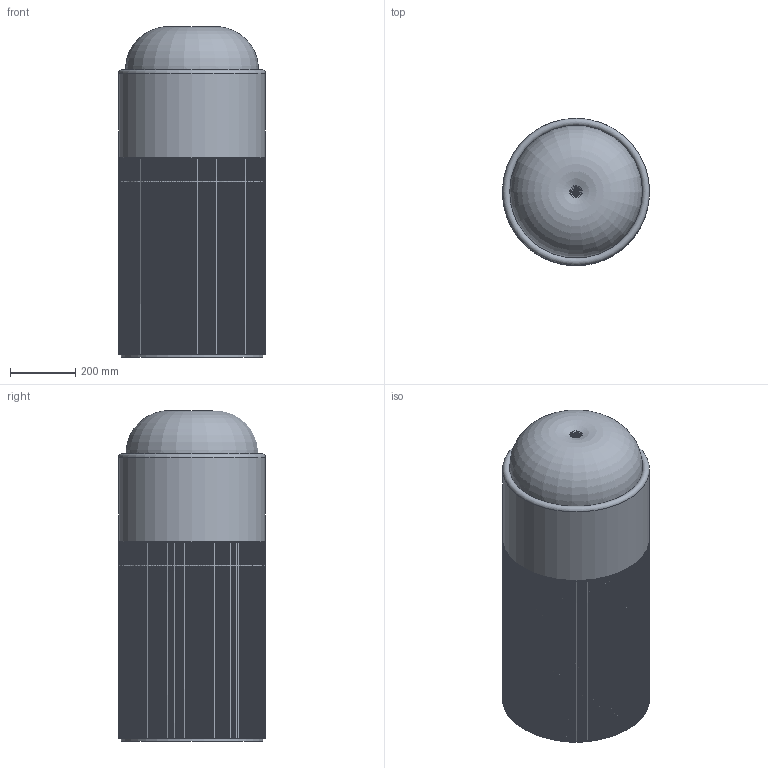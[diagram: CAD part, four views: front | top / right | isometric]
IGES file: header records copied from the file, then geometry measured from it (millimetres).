
Start section: Data from Parasolid IGES Translator 19.0.9, Copyright(c) 2006 Siemens PL M Software. All Rights Reserved.
Global section: file name: noorth-lavabi | washbasin-H 88 D 45 W 45_5076.igs; native system: By Siemens PLM Incorporated; preprocessor: XPlus GENERIC/IGES 19.0.9; author: Noname; organization: Noname; date: 20200511.120111; units: metre
Bounding box: 449.8 x 449.8 x 1011.47 mm (x, y, z)
Volume: 154427790.7 mm3; surface area: 4754542.7 mm2
Topology: 3 solids, 3 shells, 966 faces, 3800 edges, 3783 vertices
Faces by surface type: bspline 872, extrusion 67, cylinder 11, plane 11, torus 3, cone 1, revolution 1
Full cylindrical faces by diameter (mm): 50.25 x1, 55.712 x1, 61.989 x1, 150 x1, 199.341 x1, 200 x1, 433.825 x1, 441.801 x1, 442.06 x1, 445.2 x1, 449.8 x1
